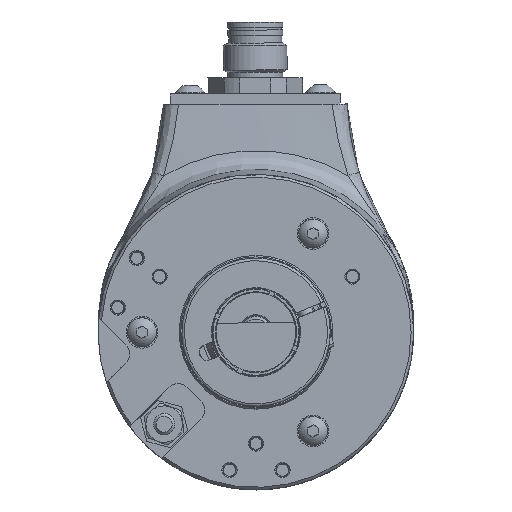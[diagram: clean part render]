
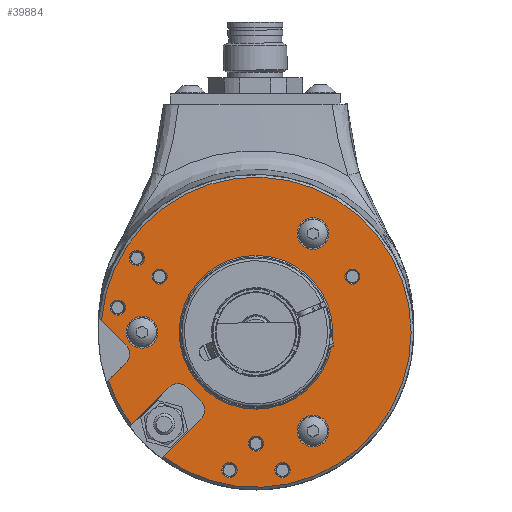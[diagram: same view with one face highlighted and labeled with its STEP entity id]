
A CAD part, left-side view. The second image highlights one B-rep face of the part: STEP entity #39884.
In plain terms, the highlighted planar face has unit normal (-1, 0, 0).
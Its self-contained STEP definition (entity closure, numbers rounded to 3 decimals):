
#906=LINE('',#56085,#3695);
#907=LINE('',#56093,#3696);
#910=LINE('',#56101,#3699);
#913=LINE('',#56109,#3702);
#914=LINE('',#56117,#3703);
#3695=VECTOR('',#45846,1000.);
#3696=VECTOR('',#45857,1000.);
#3699=VECTOR('',#45866,1000.);
#3702=VECTOR('',#45875,1000.);
#3703=VECTOR('',#45886,1000.);
#6449=PLANE('',#41961);
#9372=ORIENTED_EDGE('',*,*,#16313,.T.);
#9373=ORIENTED_EDGE('',*,*,#16312,.T.);
#9374=ORIENTED_EDGE('',*,*,#16311,.T.);
#9375=ORIENTED_EDGE('',*,*,#16310,.T.);
#9376=ORIENTED_EDGE('',*,*,#16309,.T.);
#9377=ORIENTED_EDGE('',*,*,#16307,.T.);
#9378=ORIENTED_EDGE('',*,*,#16305,.F.);
#9379=ORIENTED_EDGE('',*,*,#16303,.F.);
#9380=ORIENTED_EDGE('',*,*,#16301,.F.);
#9381=ORIENTED_EDGE('',*,*,#16299,.F.);
#9382=ORIENTED_EDGE('',*,*,#16297,.F.);
#9383=ORIENTED_EDGE('',*,*,#16295,.F.);
#9384=ORIENTED_EDGE('',*,*,#16293,.F.);
#9385=ORIENTED_EDGE('',*,*,#16291,.T.);
#9386=ORIENTED_EDGE('',*,*,#16289,.T.);
#9387=ORIENTED_EDGE('',*,*,#16288,.T.);
#9388=ORIENTED_EDGE('',*,*,#16287,.T.);
#9389=ORIENTED_EDGE('',*,*,#16286,.T.);
#9390=ORIENTED_EDGE('',*,*,#16285,.T.);
#9391=ORIENTED_EDGE('',*,*,#16284,.T.);
#9392=ORIENTED_EDGE('',*,*,#16283,.T.);
#16283=EDGE_CURVE('',#19980,#19980,#22386,.T.);
#16284=EDGE_CURVE('',#19981,#19981,#22387,.T.);
#16285=EDGE_CURVE('',#19982,#19982,#22388,.T.);
#16286=EDGE_CURVE('',#19983,#19983,#22389,.T.);
#16287=EDGE_CURVE('',#19984,#19984,#22390,.T.);
#16288=EDGE_CURVE('',#19985,#19985,#22391,.T.);
#16289=EDGE_CURVE('',#19986,#19986,#22392,.T.);
#16291=EDGE_CURVE('',#19988,#19987,#906,.T.);
#16293=EDGE_CURVE('',#19988,#19989,#22394,.T.);
#16295=EDGE_CURVE('',#19989,#19990,#907,.T.);
#16297=EDGE_CURVE('',#19990,#19991,#22396,.T.);
#16299=EDGE_CURVE('',#19991,#19992,#910,.T.);
#16301=EDGE_CURVE('',#19992,#19993,#22397,.T.);
#16303=EDGE_CURVE('',#19993,#19994,#913,.T.);
#16305=EDGE_CURVE('',#19994,#19995,#22399,.T.);
#16307=EDGE_CURVE('',#19996,#19995,#914,.T.);
#16309=EDGE_CURVE('',#19987,#19996,#22401,.T.);
#16310=EDGE_CURVE('',#19997,#19997,#22402,.T.);
#16311=EDGE_CURVE('',#19998,#19998,#22403,.T.);
#16312=EDGE_CURVE('',#19999,#19999,#22404,.T.);
#16313=EDGE_CURVE('',#20000,#20000,#22405,.T.);
#19980=VERTEX_POINT('',#56063);
#19981=VERTEX_POINT('',#56066);
#19982=VERTEX_POINT('',#56069);
#19983=VERTEX_POINT('',#56072);
#19984=VERTEX_POINT('',#56075);
#19985=VERTEX_POINT('',#56078);
#19986=VERTEX_POINT('',#56081);
#19987=VERTEX_POINT('',#56084);
#19988=VERTEX_POINT('',#56086);
#19989=VERTEX_POINT('',#56090);
#19990=VERTEX_POINT('',#56094);
#19991=VERTEX_POINT('',#56098);
#19992=VERTEX_POINT('',#56102);
#19993=VERTEX_POINT('',#56106);
#19994=VERTEX_POINT('',#56110);
#19995=VERTEX_POINT('',#56114);
#19996=VERTEX_POINT('',#56118);
#19997=VERTEX_POINT('',#56124);
#19998=VERTEX_POINT('',#56127);
#19999=VERTEX_POINT('',#56130);
#20000=VERTEX_POINT('',#56133);
#22386=CIRCLE('',#41923,1.43);
#22387=CIRCLE('',#41925,1.43);
#22388=CIRCLE('',#41927,1.43);
#22389=CIRCLE('',#41929,1.43);
#22390=CIRCLE('',#41931,1.43);
#22391=CIRCLE('',#41933,1.43);
#22392=CIRCLE('',#41935,1.43);
#22394=CIRCLE('',#41939,29.25);
#22396=CIRCLE('',#41943,2.5);
#22397=CIRCLE('',#41946,2.5);
#22399=CIRCLE('',#41950,29.25);
#22401=CIRCLE('',#41954,2.5);
#22402=CIRCLE('',#41956,3.);
#22403=CIRCLE('',#41958,3.);
#22404=CIRCLE('',#41960,3.);
#22405=CIRCLE('',#41962,14.5);
#23608=EDGE_LOOP('',(#9372));
#23609=EDGE_LOOP('',(#9373));
#23610=EDGE_LOOP('',(#9374));
#23611=EDGE_LOOP('',(#9375));
#23612=EDGE_LOOP('',(#9376,#9377,#9378,#9379,#9380,#9381,#9382,#9383,#9384,
#9385));
#23613=EDGE_LOOP('',(#9386));
#23614=EDGE_LOOP('',(#9387));
#23615=EDGE_LOOP('',(#9388));
#23616=EDGE_LOOP('',(#9389));
#23617=EDGE_LOOP('',(#9390));
#23618=EDGE_LOOP('',(#9391));
#23619=EDGE_LOOP('',(#9392));
#25782=FACE_BOUND('',#23608,.T.);
#25783=FACE_BOUND('',#23609,.T.);
#25784=FACE_BOUND('',#23610,.T.);
#25785=FACE_BOUND('',#23611,.T.);
#25786=FACE_BOUND('',#23612,.T.);
#25787=FACE_BOUND('',#23613,.T.);
#25788=FACE_BOUND('',#23614,.T.);
#25789=FACE_BOUND('',#23615,.T.);
#25790=FACE_BOUND('',#23616,.T.);
#25791=FACE_BOUND('',#23617,.T.);
#25792=FACE_BOUND('',#23618,.T.);
#25793=FACE_BOUND('',#23619,.T.);
#39884=ADVANCED_FACE('',(#25782,#25783,#25784,#25785,#25786,#25787,#25788,
#25789,#25790,#25791,#25792,#25793),#6449,.T.);
#41923=AXIS2_PLACEMENT_3D('',#56062,#45817,#45818);
#41925=AXIS2_PLACEMENT_3D('',#56065,#45821,#45822);
#41927=AXIS2_PLACEMENT_3D('',#56068,#45825,#45826);
#41929=AXIS2_PLACEMENT_3D('',#56071,#45829,#45830);
#41931=AXIS2_PLACEMENT_3D('',#56074,#45833,#45834);
#41933=AXIS2_PLACEMENT_3D('',#56077,#45837,#45838);
#41935=AXIS2_PLACEMENT_3D('',#56080,#45841,#45842);
#41939=AXIS2_PLACEMENT_3D('',#56089,#45851,#45852);
#41943=AXIS2_PLACEMENT_3D('',#56097,#45861,#45862);
#41946=AXIS2_PLACEMENT_3D('',#56105,#45870,#45871);
#41950=AXIS2_PLACEMENT_3D('',#56113,#45880,#45881);
#41954=AXIS2_PLACEMENT_3D('',#56121,#45890,#45891);
#41956=AXIS2_PLACEMENT_3D('',#56123,#45894,#45895);
#41958=AXIS2_PLACEMENT_3D('',#56126,#45898,#45899);
#41960=AXIS2_PLACEMENT_3D('',#56129,#45902,#45903);
#41961=AXIS2_PLACEMENT_3D('',#56131,#45904,#45905);
#41962=AXIS2_PLACEMENT_3D('',#56132,#45906,#45907);
#45817=DIRECTION('',(1.,0.,0.));
#45818=DIRECTION('',(0.,-0.707,-0.707));
#45821=DIRECTION('',(1.,0.,0.));
#45822=DIRECTION('',(0.,-0.707,-0.707));
#45825=DIRECTION('',(1.,0.,0.));
#45826=DIRECTION('',(0.,-0.707,-0.707));
#45829=DIRECTION('',(1.,0.,0.));
#45830=DIRECTION('',(0.,-0.707,-0.707));
#45833=DIRECTION('',(1.,0.,0.));
#45834=DIRECTION('',(0.,-0.707,-0.707));
#45837=DIRECTION('',(1.,0.,0.));
#45838=DIRECTION('',(0.,-0.707,-0.707));
#45841=DIRECTION('',(1.,0.,0.));
#45842=DIRECTION('',(0.,-0.707,-0.707));
#45846=DIRECTION('',(0.,-0.707,-0.707));
#45851=DIRECTION('',(1.,0.,0.));
#45852=DIRECTION('',(0.,-1.,0.));
#45857=DIRECTION('',(0.,-0.707,0.707));
#45861=DIRECTION('',(-1.,0.,0.));
#45862=DIRECTION('',(0.,1.,0.));
#45866=DIRECTION('',(0.,0.707,0.707));
#45870=DIRECTION('',(-1.,0.,0.));
#45871=DIRECTION('',(0.,-1.,0.));
#45875=DIRECTION('',(0.,0.707,-0.707));
#45880=DIRECTION('',(1.,0.,0.));
#45881=DIRECTION('',(0.,-1.,0.));
#45886=DIRECTION('',(0.,0.707,-0.707));
#45890=DIRECTION('',(1.,0.,0.));
#45891=DIRECTION('',(0.,1.,0.));
#45894=DIRECTION('',(1.,0.,0.));
#45895=DIRECTION('',(0.,1.,0.));
#45898=DIRECTION('',(1.,0.,0.));
#45899=DIRECTION('',(0.,1.,0.));
#45902=DIRECTION('',(1.,0.,0.));
#45903=DIRECTION('',(0.,1.,0.));
#45904=DIRECTION('',(-1.,0.,0.));
#45905=DIRECTION('',(0.,1.,0.));
#45906=DIRECTION('',(1.,0.,0.));
#45907=DIRECTION('',(0.,-1.,0.));
#56062=CARTESIAN_POINT('',(-6.2,-5.,-26.));
#56063=CARTESIAN_POINT('',(-6.2,-6.011,-27.011));
#56065=CARTESIAN_POINT('',(-6.2,5.,-26.));
#56066=CARTESIAN_POINT('',(-6.2,3.989,-27.011));
#56068=CARTESIAN_POINT('',(-6.2,26.065,4.65));
#56069=CARTESIAN_POINT('',(-6.2,25.054,3.639));
#56071=CARTESIAN_POINT('',(-6.2,22.481,13.985));
#56072=CARTESIAN_POINT('',(-6.2,21.47,12.975));
#56074=CARTESIAN_POINT('',(-6.2,18.187,10.5));
#56075=CARTESIAN_POINT('',(-6.2,17.176,9.489));
#56077=CARTESIAN_POINT('',(-6.2,0.,-21.));
#56078=CARTESIAN_POINT('',(-6.2,-1.011,-22.011));
#56080=CARTESIAN_POINT('',(-6.2,-18.187,10.5));
#56081=CARTESIAN_POINT('',(-6.2,-19.197,9.489));
#56084=CARTESIAN_POINT('',(-6.2,24.572,-2.298));
#56085=CARTESIAN_POINT('',(-6.2,24.572,-2.298));
#56086=CARTESIAN_POINT('',(-6.2,29.16,2.29));
#56089=CARTESIAN_POINT('',(-6.2,0.,0.));
#56090=CARTESIAN_POINT('',(-6.2,17.458,-23.469));
#56093=CARTESIAN_POINT('',(-6.2,20.388,-26.398));
#56094=CARTESIAN_POINT('',(-6.2,10.43,-16.44));
#56097=CARTESIAN_POINT('',(-6.2,12.198,-14.672));
#56098=CARTESIAN_POINT('',(-6.2,10.43,-12.905));
#56101=CARTESIAN_POINT('',(-6.2,10.43,-12.905));
#56102=CARTESIAN_POINT('',(-6.2,12.905,-10.43));
#56105=CARTESIAN_POINT('',(-6.2,14.672,-12.198));
#56106=CARTESIAN_POINT('',(-6.2,16.44,-10.43));
#56109=CARTESIAN_POINT('',(-6.2,16.44,-10.43));
#56110=CARTESIAN_POINT('',(-6.2,23.469,-17.458));
#56113=CARTESIAN_POINT('',(-6.2,0.,0.));
#56114=CARTESIAN_POINT('',(-6.2,27.808,-9.07));
#56117=CARTESIAN_POINT('',(-6.2,31.014,-12.275));
#56118=CARTESIAN_POINT('',(-6.2,24.572,-5.834));
#56121=CARTESIAN_POINT('',(-6.2,26.34,-4.066));
#56123=CARTESIAN_POINT('',(-6.2,21.5,0.));
#56124=CARTESIAN_POINT('',(-6.2,24.5,0.));
#56126=CARTESIAN_POINT('',(-6.2,-10.75,-18.62));
#56127=CARTESIAN_POINT('',(-6.2,-7.75,-18.62));
#56129=CARTESIAN_POINT('',(-6.2,-10.75,18.62));
#56130=CARTESIAN_POINT('',(-6.2,-7.75,18.62));
#56131=CARTESIAN_POINT('',(-6.2,0.,-29.25));
#56132=CARTESIAN_POINT('',(-6.2,0.,0.));
#56133=CARTESIAN_POINT('',(-6.2,-14.5,0.));
